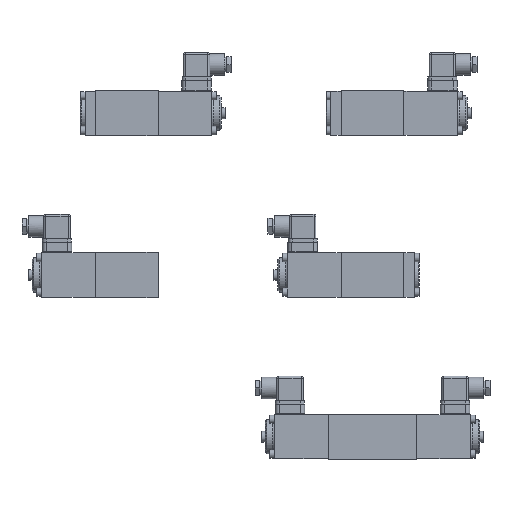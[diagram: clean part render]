
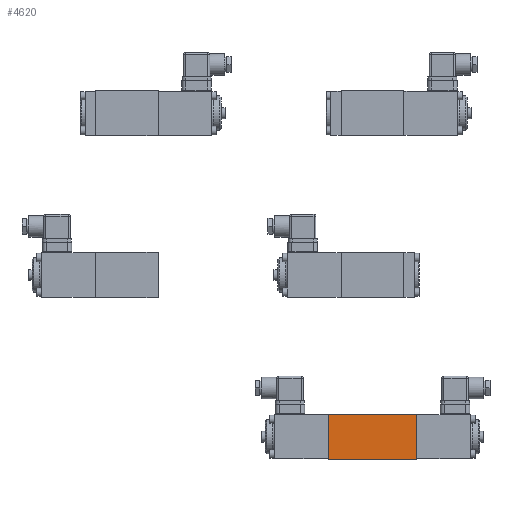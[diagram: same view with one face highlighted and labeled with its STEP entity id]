
A CAD part, front view. The second image highlights one B-rep face of the part: STEP entity #4620.
In plain terms, the highlighted planar face has unit normal (0, -1, 0).
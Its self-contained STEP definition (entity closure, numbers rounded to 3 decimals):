
#4620=ADVANCED_FACE('', (#4630), #4640, .T.);
#60340=AXIS2_PLACEMENT_3D('Ax2Pl3d', #60350, #60360, #60370);
#189250=CARTESIAN_POINT('', (90.,0.,0.));
#189300=CARTESIAN_POINT('', (90.,0.,46.));
#189310=CARTESIAN_POINT('', (90.,0.,46.));
#189420=CARTESIAN_POINT('', (0.,0.,46.));
#189430=CARTESIAN_POINT('', (0.,0.,0.));
#189440=CARTESIAN_POINT('', (0.,0.,46.));
#189580=CARTESIAN_POINT('', (90.,0.,0.));
#189720=CARTESIAN_POINT('', (90.,0.,46.));
#60350=CARTESIAN_POINT('HicPkt', (0.,0.,0.));
#343870=DIRECTION('', (0.,0.,1.));
#343880=DIRECTION('', (0.,0.,1.));
#343920=DIRECTION('', (1.,0.,0.));
#343940=DIRECTION('', (1.,0.,0.));
#60360=DIRECTION('Axis', (0.,-1.,
0.));
#60370=DIRECTION('RefDirection', (0.,
0.,-1.));
#362920=EDGE_CURVE('', #362830, #362900, #362930, .T.);
#363140=EDGE_CURVE('', #363150, #363160, #363170, .T.);
#363420=EDGE_CURVE('', #363150, #362830, #363430, .T.);
#363700=EDGE_CURVE('', #363160, #362900, #363710, .T.);
#432960=EDGE_LOOP('Edge_loop', (#432970,#432980,#432990,#433000));
#4630=FACE_OUTER_BOUND('Face_outer_bound', #432960, .T.);
#362930=LINE('Line', #189310, #547520);
#363170=LINE('Line', #189420, #547530);
#363430=LINE('Line', #189580, #547570);
#363710=LINE('Line', #189720, #547590);
#432970=ORIENTED_EDGE('', *, *, #363420, .T.);
#432980=ORIENTED_EDGE('', *, *, #362920, .T.);
#432990=ORIENTED_EDGE('', *, *, #363700, .F.);
#433000=ORIENTED_EDGE('', *, *, #363140, .F.);
#4640=PLANE('Plane', #60340);
#547520=VECTOR('', #343870, 46.);
#547530=VECTOR('', #343880, 46.);
#547570=VECTOR('', #343920, 90.);
#547590=VECTOR('', #343940, 90.);
#362830=VERTEX_POINT('', #189250);
#362900=VERTEX_POINT('', #189300);
#363150=VERTEX_POINT('', #189430);
#363160=VERTEX_POINT('', #189440);
